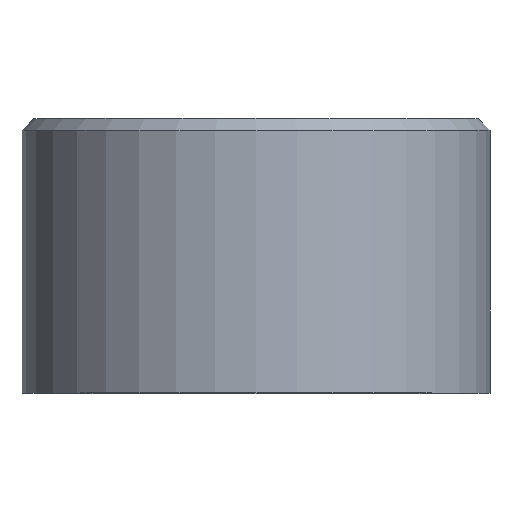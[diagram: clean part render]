
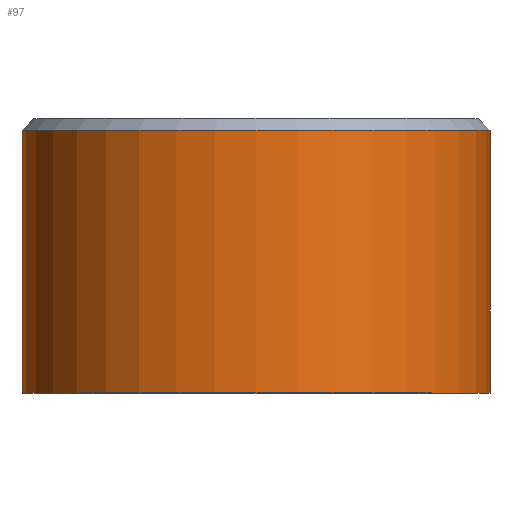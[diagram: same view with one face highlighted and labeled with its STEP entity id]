
A CAD part, top view. The second image highlights one B-rep face of the part: STEP entity #97.
In plain terms, the highlighted cylindrical face has radius 37.5 mm (diameter 75 mm), a full revolution.
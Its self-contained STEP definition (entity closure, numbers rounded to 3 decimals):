
#15=CYLINDRICAL_SURFACE('',#110,37.5);
#23=FACE_BOUND('',#42,.T.);
#31=FACE_OUTER_BOUND('',#41,.T.);
#41=EDGE_LOOP('',(#81));
#42=EDGE_LOOP('',(#82));
#53=CIRCLE('',#106,37.5);
#56=CIRCLE('',#111,37.5);
#61=VERTEX_POINT('',#157);
#64=VERTEX_POINT('',#165);
#69=EDGE_CURVE('',#61,#61,#53,.T.);
#72=EDGE_CURVE('',#64,#64,#56,.T.);
#81=ORIENTED_EDGE('',*,*,#72,.T.);
#82=ORIENTED_EDGE('',*,*,#69,.F.);
#97=ADVANCED_FACE('',(#31,#23),#15,.T.);
#106=AXIS2_PLACEMENT_3D('',#158,#125,#126);
#110=AXIS2_PLACEMENT_3D('',#164,#133,#134);
#111=AXIS2_PLACEMENT_3D('',#166,#135,#136);
#125=DIRECTION('center_axis',(0.,1.,0.));
#126=DIRECTION('ref_axis',(1.,0.,0.));
#133=DIRECTION('center_axis',(0.,1.,0.));
#134=DIRECTION('ref_axis',(-1.,0.,0.));
#135=DIRECTION('center_axis',(0.,1.,0.));
#136=DIRECTION('ref_axis',(1.,0.,0.));
#157=CARTESIAN_POINT('',(-37.5,42.125,0.));
#158=CARTESIAN_POINT('Origin',(0.,42.125,0.));
#164=CARTESIAN_POINT('Origin',(0.,22.,0.));
#165=CARTESIAN_POINT('',(-37.5,0.,0.));
#166=CARTESIAN_POINT('Origin',(0.,0.,0.));
